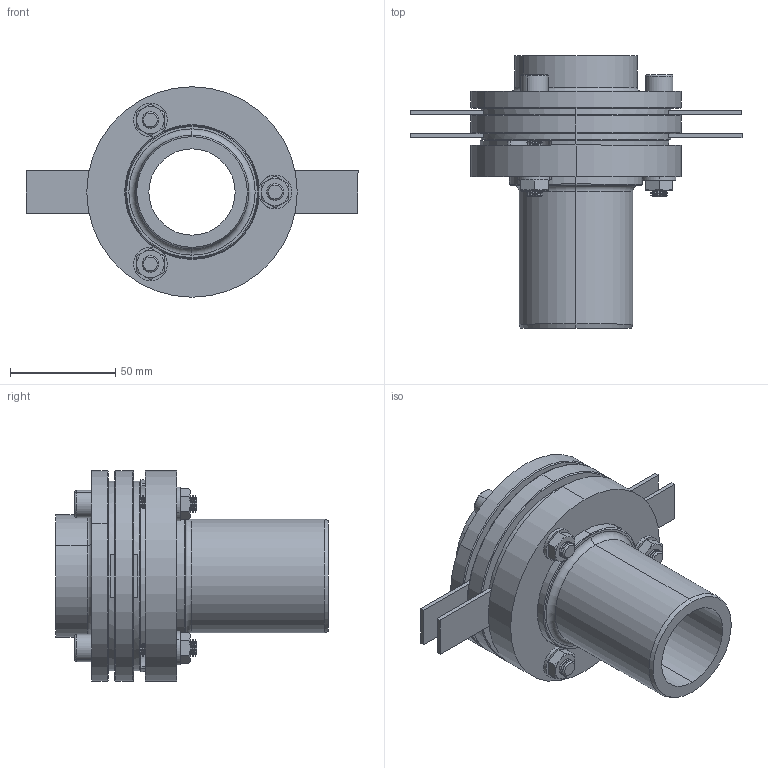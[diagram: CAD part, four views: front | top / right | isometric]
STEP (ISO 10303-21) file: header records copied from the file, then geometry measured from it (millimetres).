
FILE_DESCRIPTION (( 'STEP AP203' ), '1' );
FILE_NAME ('KP_C13-54F.step', '2011-08-08T12:01:57', ( '' ), ( '' ), 'SwSTEP 2.0', 'SolidWorks 2011', '' );
FILE_SCHEMA (( 'CONFIG_CONTROL_DESIGN' ));
Length unit declared in the file: millimetre
Products named in the file (1): KP_C13-54F
Bounding box: 157.75 x 129.5 x 100 mm (x, y, z)
Volume: 326434.9 mm3; surface area: 92483.7 mm2
Topology: 1 solids, 16 shells, 783 faces, 1651 edges, 902 vertices
Faces by surface type: cylinder 340, cone 307, plane 106, torus 24, bspline 6
Entity records: 20926 total; most frequent: DIRECTION 3953, CARTESIAN_POINT 3781, ORIENTED_EDGE 3302, EDGE_CURVE 1651, AXIS2_PLACEMENT_3D 1596, VERTEX_POINT 902, EDGE_LOOP 829, CIRCLE 818
